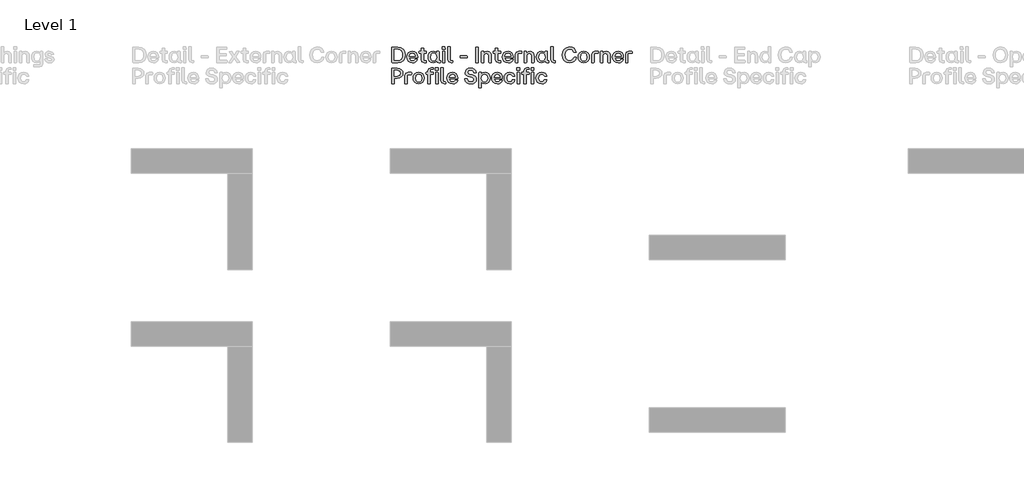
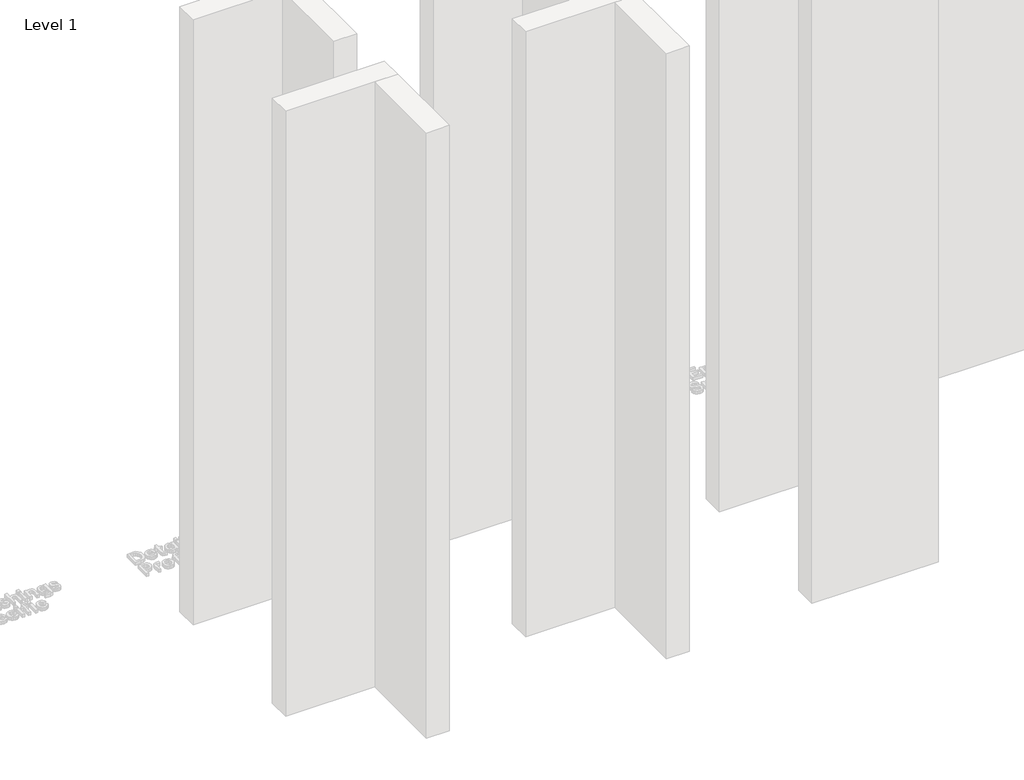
# One storey, part 41 of 64: 1 proxy.
"""IFC4 building model written with IfcOpenShell, lengths in millimetres."""

from ifc_helpers import new_model, si_unit, origin, origin_with_axes, place, context, project, spatial, polyline, outline, extrude, element, save

model = new_model("IFC4")

# Units and contexts
model_context = context("Model", 3, world=origin())
ifc_project = project(units=[si_unit("LENGTHUNIT", "METRE", prefix="MILLI")], contexts=[model_context])

# Site, building, storey
site = spatial("IfcSite", under=ifc_project)
building = spatial("IfcBuilding", under=site)
storey = spatial("IfcBuildingStorey", under=building, Name="Level 1", Elevation=0.0)

# Proxy
placement = place(None, origin())
element("IfcBuildingElementProxy", 1, Name="90mm", ObjectType="90mm", at=placement, inside=storey, context=model_context, shape_type="SweptSolid", body=[
    extrude(outline(polyline([(10610.2926176, -1500.0), (10608.9872124, -1498.7448027), (10608.9872124, -1411.3077612), (10642.5511873, -1410.002356), (10660.5475781, -1413.0054155), (10674.1193986, -1422.0145938), (10682.63905, -1436.3583606), (10685.4789338, -1455.3651852), (10682.648464, -1474.2025582), (10674.1570545, -1488.2890095), (10660.594648, -1497.0722524), (10642.5511873, -1500.0), (10610.2926176, -1500.0)]), holes=[polyline([(10623.7985402, -1487.3727155), (10641.6725492, -1487.3727155), (10653.8950326, -1485.311054), (10662.9481429, -1479.1260695), (10668.5494607, -1469.0625254), (10670.4165666, -1455.3651852), (10668.5431847, -1441.5109454), (10662.923039, -1431.1775339), (10653.8636527, -1424.7477859), (10641.6725492, -1422.6045366), (10623.7985402, -1422.6045366), (10623.7985402, -1487.3727155)])]), origin_with_axes(), (0.0, 0.0, 1.0), 20.0),
    extrude(outline(polyline([(10727.628458, -1500.7531184), (10714.0409476, -1498.4843493), (10703.5035666, -1491.6780421), (10696.7443293, -1481.0622112), (10694.4912502, -1467.3648711), (10696.7349153, -1453.5012173), (10703.4659107, -1442.7881086), (10713.9938777, -1435.9347315), (10727.628458, -1433.6502725), (10740.1584647, -1435.9033516), (10749.7324819, -1442.6625889), (10755.8044987, -1453.3129377), (10757.8285043, -1467.2393514), (10757.8285043, -1470.6785919), (10756.573307, -1472.009101), (10709.1268503, -1472.009101), (10714.6497183, -1484.6865934), (10727.628458, -1489.2053035), (10738.0465953, -1486.9082925), (10743.4439436, -1480.4691305), (10744.8246606, -1479.4147648), (10756.1967478, -1479.4147648), (10754.1633282, -1488.7314665), (10747.8120301, -1495.1925945), (10738.8248176, -1499.3629874), (10727.628458, -1500.7531184)]), holes=[polyline([(10709.2523701, -1461.5909637), (10743.8205028, -1461.5909637), (10739.0633051, -1449.6289337), (10727.628458, -1445.2733992), (10714.8631018, -1449.4155502), (10709.2523701, -1461.5909637)])]), origin_with_axes(), (0.0, 0.0, 1.0), 20.0),
    extrude(outline(polyline([(10796.6140998, -1500.0), (10782.731618, -1495.2302504), (10777.9618684, -1481.3477686), (10777.9618684, -1445.7754781), (10766.7906127, -1445.7754781), (10765.4852076, -1435.7339), (10766.7906127, -1434.4787027), (10777.9618684, -1434.4787027), (10777.9618684, -1416.45407), (10779.2170657, -1415.1486648), (10790.9657121, -1415.1486648), (10792.2209094, -1416.45407), (10792.2209094, -1434.4787027), (10808.0363949, -1434.4787027), (10809.3418001, -1435.7339), (10809.3418001, -1444.444969), (10792.2209094, -1445.7754781), (10792.2209094, -1488.7032246), (10808.0363949, -1488.7032246), (10809.3418001, -1489.9584219), (10809.3418001, -1498.7448027), (10808.0363949, -1500.0), (10796.6140998, -1500.0)])), origin_with_axes(), (0.0, 0.0, 1.0), 20.0),
    extrude(outline(polyline([(10847.2738615, -1500.7531184), (10835.3243835, -1498.4843493), (10826.0861316, -1491.6780421), (10820.1741525, -1481.0622112), (10818.2034928, -1467.3648711), (10820.1741525, -1453.5325972), (10826.0861316, -1442.8132125), (10835.3243835, -1435.9410075), (10847.2738615, -1433.6502725), (10859.1856835, -1436.5372262), (10868.160344, -1444.444969), (10868.7377347, -1435.7339), (10869.992932, -1434.4787027), (10881.6662665, -1434.4787027), (10882.9716717, -1435.7339), (10882.9716717, -1488.7032246), (10890.0760882, -1488.7032246), (10891.3312855, -1489.9584219), (10891.3312855, -1498.7448027), (10890.0760882, -1500.0), (10880.536589, -1500.0), (10872.1581473, -1497.6465051), (10869.3653333, -1490.5860205), (10859.7254183, -1497.8661646), (10847.2738615, -1500.7531184)]), holes=[polyline([(10832.7135732, -1467.3648711), (10837.6716024, -1483.3686362), (10843.5365116, -1487.7461367), (10851.2151809, -1489.2053035), (10858.7714684, -1487.7524127), (10864.470064, -1483.3937402), (10869.2398136, -1467.3648711), (10864.4324081, -1451.1728263), (10858.7243985, -1446.748256), (10851.2151809, -1445.2733992), (10843.5365116, -1446.748256), (10837.6716024, -1451.1728263), (10832.7135732, -1467.3648711)])]), origin_with_axes(), (0.0, 0.0, 1.0), 20.0),
    extrude(outline(polyline([(10903.6824266, -1500.0), (10902.3770214, -1498.7448027), (10902.3770214, -1435.7339), (10903.6824266, -1434.4787027), (10915.3557612, -1434.4787027), (10916.6109584, -1435.7339), (10916.6109584, -1498.7448027), (10915.3557612, -1500.0), (10903.6824266, -1500.0)])), origin_with_axes(), (0.0, 0.0, 1.0), 20.0),
    extrude(outline(polyline([(10901.3728636, -1421.8514182), (10901.3728636, -1407.9940404), (10902.6280609, -1406.6635313), (10916.4854387, -1406.6635313), (10917.8159478, -1421.8514182), (10916.4854387, -1423.1066155), (10902.6280609, -1423.1066155), (10901.3728636, -1421.8514182)])), origin_with_axes(), (0.0, 0.0, 1.0), 20.0),
    extrude(outline(polyline([(10951.5305464, -1500.0), (10937.6731686, -1495.2302504), (10932.903419, -1481.3477686), (10932.903419, -1408.7471587), (10945.8821587, -1407.4166496), (10947.137356, -1408.7471587), (10947.137356, -1488.7032246), (10959.1370418, -1488.7032246), (10960.3922391, -1489.9584219), (10960.3922391, -1498.7448027), (10959.1370418, -1500.0), (10951.5305464, -1500.0)])), origin_with_axes(), (0.0, 0.0, 1.0), 20.0),
    extrude(outline(polyline([(11005.1776775, -1472.887739), (11003.9224803, -1471.5572299), (11003.9224803, -1461.5909637), (11005.1776775, -1460.2604546), (11043.7875455, -1460.2604546), (11045.0427427, -1461.5909637), (11045.0427427, -1471.5572299), (11043.7875455, -1472.887739), (11005.1776775, -1472.887739)])), origin_with_axes(), (0.0, 0.0, 1.0), 20.0),
    extrude(outline(polyline([(11096.1292715, -1500.0), (11094.8740742, -1498.7448027), (11094.8740742, -1411.3077612), (11096.1292715, -1410.002356), (11108.3799968, -1410.002356), (11109.635194, -1411.3077612), (11109.635194, -1498.7448027), (11108.3799968, -1500.0), (11096.1292715, -1500.0)])), origin_with_axes(), (0.0, 0.0, 1.0), 20.0),
    extrude(outline(polyline([(11128.6137767, -1500.0), (11127.3083716, -1498.7448027), (11127.3083716, -1435.7339), (11128.6137767, -1434.4787027), (11139.6595127, -1434.4787027), (11140.9147099, -1435.7339), (11140.9147099, -1444.444969), (11150.2094457, -1436.3489466), (11162.1275437, -1433.6502725), (11172.0530161, -1435.5330684), (11179.3362982, -1441.1814561), (11183.8079385, -1450.4573639), (11185.2984853, -1463.2227201), (11185.2984853, -1498.7448027), (11183.9679762, -1500.0), (11172.2946416, -1500.0), (11170.9892364, -1498.7448027), (11170.9892364, -1463.2227201), (11167.4746841, -1449.942733), (11156.3661883, -1445.7754781), (11145.1572767, -1450.0054929), (11141.5423086, -1463.2227201), (11141.5423086, -1498.7448027), (11140.2871113, -1500.0), (11128.6137767, -1500.0)])), origin_with_axes(), (0.0, 0.0, 1.0), 20.0),
    extrude(outline(polyline([(11227.19697, -1500.0), (11213.3144882, -1495.2302504), (11208.5447386, -1481.3477686), (11208.5447386, -1445.7754781), (11197.373483, -1445.7754781), (11196.0680778, -1435.7339), (11197.373483, -1434.4787027), (11208.5447386, -1434.4787027), (11208.5447386, -1416.45407), (11209.7999359, -1415.1486648), (11221.5485823, -1415.1486648), (11222.8037796, -1416.45407), (11222.8037796, -1434.4787027), (11238.6192651, -1434.4787027), (11239.9246703, -1435.7339), (11239.9246703, -1444.444969), (11222.8037796, -1445.7754781), (11222.8037796, -1488.7032246), (11238.6192651, -1488.7032246), (11239.9246703, -1489.9584219), (11239.9246703, -1498.7448027), (11238.6192651, -1500.0), (11227.19697, -1500.0)])), origin_with_axes(), (0.0, 0.0, 1.0), 20.0),
    extrude(outline(polyline([(11281.9235708, -1500.7531184), (11268.3360604, -1498.4843493), (11257.7986794, -1491.6780421), (11251.0394421, -1481.0622112), (11248.786363, -1467.3648711), (11251.0300281, -1453.5012173), (11257.7610234, -1442.7881086), (11268.2889905, -1435.9347315), (11281.9235708, -1433.6502725), (11294.4535775, -1435.9033516), (11304.0275947, -1442.6625889), (11310.0996115, -1453.3129377), (11312.123617, -1467.2393514), (11312.123617, -1470.6785919), (11310.8684198, -1472.009101), (11263.4219631, -1472.009101), (11268.9448311, -1484.6865934), (11281.9235708, -1489.2053035), (11292.3417081, -1486.9082925), (11297.7390564, -1480.4691305), (11299.1197734, -1479.4147648), (11310.4918606, -1479.4147648), (11308.458441, -1488.7314665), (11302.1071429, -1495.1925945), (11293.1199304, -1499.3629874), (11281.9235708, -1500.7531184)]), holes=[polyline([(11263.5474828, -1461.5909637), (11298.1156156, -1461.5909637), (11293.3584179, -1449.6289337), (11281.9235708, -1445.2733992), (11269.1582146, -1449.4155502), (11263.5474828, -1461.5909637)])]), origin_with_axes(), (0.0, 0.0, 1.0), 20.0),
    extrude(outline(polyline([(11325.5542278, -1500.0), (11324.2990305, -1498.7448027), (11324.2990305, -1453.0556222), (11329.0687801, -1439.2107964), (11342.926158, -1434.4787027), (11361.2018302, -1434.4787027), (11362.4570274, -1435.7339), (11362.4570274, -1445.2733992), (11361.2018302, -1446.5285965), (11338.5329675, -1446.5285965), (11338.5329675, -1498.7448027), (11337.2777703, -1500.0), (11325.5542278, -1500.0)])), origin_with_axes(), (0.0, 0.0, 1.0), 20.0),
    extrude(outline(polyline([(11376.0382618, -1500.0), (11374.7328567, -1498.7448027), (11374.7328567, -1435.7339), (11376.0382618, -1434.4787027), (11387.0839978, -1434.4787027), (11388.339195, -1435.7339), (11388.339195, -1444.444969), (11397.6339308, -1436.3489466), (11409.5520288, -1433.6502725), (11419.4775012, -1435.5330684), (11426.7607834, -1441.1814561), (11431.2324236, -1450.4573639), (11432.7229704, -1463.2227201), (11432.7229704, -1498.7448027), (11431.3924613, -1500.0), (11419.7191267, -1500.0), (11418.4137215, -1498.7448027), (11418.4137215, -1463.2227201), (11414.8991692, -1449.942733), (11403.7906734, -1445.7754781), (11392.5817618, -1450.0054929), (11388.9667937, -1463.2227201), (11388.9667937, -1498.7448027), (11387.7115964, -1500.0), (11376.0382618, -1500.0)])), origin_with_axes(), (0.0, 0.0, 1.0), 20.0),
    extrude(outline(polyline([(11473.8683368, -1500.7531184), (11461.9188588, -1498.4843493), (11452.6806069, -1491.6780421), (11446.7686278, -1481.0622112), (11444.7979681, -1467.3648711), (11446.7686278, -1453.5325972), (11452.6806069, -1442.8132125), (11461.9188588, -1435.9410075), (11473.8683368, -1433.6502725), (11485.7801588, -1436.5372262), (11494.7548193, -1444.444969), (11495.33221, -1435.7339), (11496.5874073, -1434.4787027), (11508.2607419, -1434.4787027), (11509.566147, -1435.7339), (11509.566147, -1488.7032246), (11516.6705636, -1488.7032246), (11517.9257608, -1489.9584219), (11517.9257608, -1498.7448027), (11516.6705636, -1500.0), (11507.1310643, -1500.0), (11498.7526226, -1497.6465051), (11495.9598087, -1490.5860205), (11486.3198937, -1497.8661646), (11473.8683368, -1500.7531184)]), holes=[polyline([(11459.3080485, -1467.3648711), (11464.2660777, -1483.3686362), (11470.1309869, -1487.7461367), (11477.8096562, -1489.2053035), (11485.3659437, -1487.7524127), (11491.0645393, -1483.3937402), (11495.8342889, -1467.3648711), (11491.0268834, -1451.1728263), (11485.3188738, -1446.748256), (11477.8096562, -1445.2733992), (11470.1309869, -1446.748256), (11464.2660777, -1451.1728263), (11459.3080485, -1467.3648711)])]), origin_with_axes(), (0.0, 0.0, 1.0), 20.0),
    extrude(outline(polyline([(11547.5986242, -1500.0), (11533.7412464, -1495.2302504), (11528.9714968, -1481.3477686), (11528.9714968, -1408.7471587), (11541.9502365, -1407.4166496), (11543.2054338, -1408.7471587), (11543.2054338, -1488.7032246), (11555.2051196, -1488.7032246), (11556.4603169, -1489.9584219), (11556.4603169, -1498.7448027), (11555.2051196, -1500.0), (11547.5986242, -1500.0)])), origin_with_axes(), (0.0, 0.0, 1.0), 20.0),
    extrude(outline(polyline([(11638.5251142, -1500.7531184), (11620.5130334, -1497.6684711), (11606.6431036, -1488.4145292), (11597.7939629, -1473.8887589), (11594.8442493, -1454.988626), (11597.8190668, -1436.4054305), (11606.7435194, -1421.8263143), (11620.6385531, -1412.3935068), (11638.5251142, -1409.2492376), (11652.4734938, -1411.3265891), (11664.0432746, -1417.5586436), (11672.3620945, -1427.2424905), (11676.5575913, -1439.6752194), (11663.37802, -1441.1312482), (11661.9470951, -1440.0015707), (11654.0832843, -1426.3889563), (11638.5251142, -1421.8514182), (11626.6007401, -1424.0731174), (11617.5382159, -1430.7382148), (11611.8145163, -1441.244216), (11609.9066165, -1454.988626), (11611.8051024, -1468.9464196), (11617.50056, -1479.4398688), (11626.5536702, -1486.0108265), (11638.5251142, -1488.2011457), (11654.3908076, -1483.7263674), (11662.8257332, -1470.3020327), (11664.2566581, -1469.1221472), (11676.1810321, -1469.1221472), (11673.0085211, -1482.8791093), (11664.5453535, -1492.4688164), (11652.7872931, -1498.6820429), (11638.5251142, -1500.7531184)])), origin_with_axes(), (0.0, 0.0, 1.0), 20.0),
    extrude(outline(polyline([(11720.1631444, -1500.7531184), (11706.9365032, -1498.4466934), (11696.4775719, -1491.5274185), (11689.6712648, -1480.8739317), (11687.4024957, -1467.3648711), (11689.6775408, -1453.7679467), (11696.5026759, -1443.0014921), (11706.9678831, -1435.9880774), (11720.1631444, -1433.6502725), (11733.5153053, -1435.9880774), (11744.0495483, -1443.0014921), (11750.8935114, -1453.7679467), (11753.1748325, -1467.3648711), (11750.8935114, -1480.8739317), (11744.0495483, -1491.5274185), (11733.5153053, -1498.4466934), (11720.1631444, -1500.7531184)]), holes=[polyline([(11701.9125761, -1467.3648711), (11706.7701895, -1483.3937402), (11712.5472349, -1487.7524127), (11720.1631444, -1489.2053035), (11727.8606416, -1487.7461367), (11733.7318268, -1483.3686362), (11738.689856, -1467.3648711), (11733.7569308, -1451.1728263), (11727.8920215, -1446.748256), (11720.1631444, -1445.2733992), (11712.5472349, -1446.748256), (11706.7701895, -1451.1728263), (11701.9125761, -1467.3648711)])]), origin_with_axes(), (0.0, 0.0, 1.0), 20.0),
    extrude(outline(polyline([(11767.3836655, -1500.0), (11766.1284682, -1498.7448027), (11766.1284682, -1453.0556222), (11770.8982179, -1439.2107964), (11784.7555957, -1434.4787027), (11803.0312679, -1434.4787027), (11804.2864651, -1435.7339), (11804.2864651, -1445.2733992), (11803.0312679, -1446.5285965), (11780.3624052, -1446.5285965), (11780.3624052, -1498.7448027), (11779.107208, -1500.0), (11767.3836655, -1500.0)])), origin_with_axes(), (0.0, 0.0, 1.0), 20.0),
    extrude(outline(polyline([(11817.8676996, -1500.0), (11816.5622944, -1498.7448027), (11816.5622944, -1435.7339), (11817.8676996, -1434.4787027), (11828.9134355, -1434.4787027), (11830.1686328, -1435.7339), (11830.1686328, -1444.444969), (11839.4633685, -1436.3489466), (11851.3814666, -1433.6502725), (11861.306939, -1435.5330684), (11868.5902211, -1441.1814561), (11873.0618614, -1450.4573639), (11874.5524081, -1463.2227201), (11874.5524081, -1498.7448027), (11873.221899, -1500.0), (11861.5485644, -1500.0), (11860.2431593, -1498.7448027), (11860.2431593, -1463.2227201), (11856.7286069, -1449.942733), (11845.6201111, -1445.7754781), (11834.4111995, -1450.0054929), (11830.7962314, -1463.2227201), (11830.7962314, -1498.7448027), (11829.5410341, -1500.0), (11817.8676996, -1500.0)])), origin_with_axes(), (0.0, 0.0, 1.0), 20.0),
    extrude(outline(polyline([(11919.7646136, -1500.7531184), (11906.1771032, -1498.4843493), (11895.6397222, -1491.6780421), (11888.8804849, -1481.0622112), (11886.6274058, -1467.3648711), (11888.8710709, -1453.5012173), (11895.6020663, -1442.7881086), (11906.1300333, -1435.9347315), (11919.7646136, -1433.6502725), (11932.2946204, -1435.9033516), (11941.8686375, -1442.6625889), (11947.9406543, -1453.3129377), (11949.9646599, -1467.2393514), (11949.9646599, -1470.6785919), (11948.7094626, -1472.009101), (11901.2630059, -1472.009101), (11906.7858739, -1484.6865934), (11919.7646136, -1489.2053035), (11930.182751, -1486.9082925), (11935.5800992, -1480.4691305), (11936.9608162, -1479.4147648), (11948.3329034, -1479.4147648), (11946.2994838, -1488.7314665), (11939.9481857, -1495.1925945), (11930.9609733, -1499.3629874), (11919.7646136, -1500.7531184)]), holes=[polyline([(11901.3885257, -1461.5909637), (11935.9566584, -1461.5909637), (11931.1994607, -1449.6289337), (11919.7646136, -1445.2733992), (11906.9992574, -1449.4155502), (11901.3885257, -1461.5909637)])]), origin_with_axes(), (0.0, 0.0, 1.0), 20.0),
    extrude(outline(polyline([(11963.3952706, -1500.0), (11962.1400733, -1498.7448027), (11962.1400733, -1453.0556222), (11966.909823, -1439.2107964), (11980.7672008, -1434.4787027), (11999.042873, -1434.4787027), (12000.2980702, -1435.7339), (12000.2980702, -1445.2733992), (11999.042873, -1446.5285965), (11976.3740103, -1446.5285965), (11976.3740103, -1498.7448027), (11975.1188131, -1500.0), (11963.3952706, -1500.0)])), origin_with_axes(), (0.0, 0.0, 1.0), 20.0),
    extrude(outline(polyline([(10610.2926176, -1622.13305), (10608.9872124, -1620.8778528), (10608.9872124, -1533.4408112), (10640.1161046, -1532.135406), (10654.0174144, -1534.0338919), (10664.3414119, -1539.7293495), (10670.7429179, -1548.9236695), (10672.8767533, -1561.3187425), (10670.7429179, -1573.7138155), (10664.3414119, -1582.9081354), (10654.0174144, -1588.603593), (10640.1161046, -1590.5020789), (10623.7985402, -1590.5020789), (10623.7985402, -1620.8778528), (10622.4680311, -1622.13305), (10610.2926176, -1622.13305)]), holes=[polyline([(10623.7985402, -1577.8747944), (10640.1161046, -1577.8747944), (10653.5969233, -1573.7954033), (10657.9901137, -1561.3061905), (10653.5969233, -1548.8169777), (10640.1161046, -1544.7375866), (10623.7985402, -1544.7375866), (10623.7985402, -1577.8747944)])]), origin_with_axes(), (0.0, 0.0, 1.0), 20.0),
    extrude(outline(polyline([(10686.1065325, -1622.13305), (10684.8513352, -1620.8778528), (10684.8513352, -1575.1886723), (10689.6210848, -1561.3438464), (10703.4784626, -1556.6117527), (10721.7541348, -1556.6117527), (10723.0093321, -1557.86695), (10723.0093321, -1567.4064492), (10721.7541348, -1568.6616465), (10699.0852722, -1568.6616465), (10699.0852722, -1620.8778528), (10697.8300749, -1622.13305), (10686.1065325, -1622.13305)])), origin_with_axes(), (0.0, 0.0, 1.0), 20.0),
    extrude(outline(polyline([(10764.2049064, -1622.8861684), (10750.9782652, -1620.5797434), (10740.519334, -1613.6604685), (10733.7130268, -1603.0069817), (10731.4442577, -1589.4979211), (10733.7193028, -1575.9009967), (10740.5444379, -1565.1345422), (10751.0096451, -1558.1211274), (10764.2049064, -1555.7833225), (10777.5570673, -1558.1211274), (10788.0913103, -1565.1345422), (10794.9352734, -1575.9009967), (10797.2165945, -1589.4979211), (10794.9352734, -1603.0069817), (10788.0913103, -1613.6604685), (10777.5570673, -1620.5797434), (10764.2049064, -1622.8861684)]), holes=[polyline([(10745.9543381, -1589.4979211), (10750.8119515, -1605.5267902), (10756.588997, -1609.8854627), (10764.2049064, -1611.3383535), (10771.9024036, -1609.8791867), (10777.7735888, -1605.5016862), (10782.731618, -1589.4979211), (10777.7986928, -1573.3058764), (10771.9337835, -1568.881306), (10764.2049064, -1567.4064492), (10756.588997, -1568.881306), (10750.8119515, -1573.3058764), (10745.9543381, -1589.4979211)])]), origin_with_axes(), (0.0, 0.0, 1.0), 20.0),
    extrude(outline(polyline([(10861.3069669, -1543.9844682), (10861.3069669, -1530.1270904), (10862.5621642, -1528.7965813), (10876.4948538, -1528.7965813), (10877.7500511, -1530.1270904), (10877.7500511, -1543.9844682), (10876.4948538, -1545.2396655), (10862.5621642, -1545.2396655), (10861.3069669, -1543.9844682)])), origin_with_axes(), (0.0, 0.0, 1.0), 20.0),
    extrude(outline(polyline([(10862.3111247, -1620.8778528), (10862.3111247, -1557.86695), (10863.6416338, -1556.6117527), (10875.3149684, -1556.6117527), (10876.6203735, -1557.86695), (10876.6203735, -1620.8778528), (10875.3149684, -1622.13305), (10863.6416338, -1622.13305), (10862.3111247, -1620.8778528)])), origin_with_axes(), (0.0, 0.0, 1.0), 20.0),
    extrude(outline(polyline([(10819.3833782, -1622.13305), (10818.1281809, -1620.8778528), (10818.1281809, -1567.9085281), (10806.9569253, -1567.9085281), (10805.6515201, -1557.86695), (10806.9569253, -1556.6117527), (10818.1281809, -1556.6117527), (10818.1281809, -1548.201931), (10822.8979305, -1534.3194493), (10836.7804123, -1529.5496997), (10848.2027074, -1529.5496997), (10849.5081126, -1539.5912778), (10832.3872219, -1540.9217869), (10832.3872219, -1556.6117527), (10848.2027074, -1556.6117527), (10849.5081126, -1557.86695), (10849.5081126, -1566.578019), (10832.3872219, -1567.9085281), (10832.3872219, -1620.8778528), (10831.1320246, -1622.13305), (10819.3833782, -1622.13305)])), origin_with_axes(), (0.0, 0.0, 1.0), 20.0),
    extrude(outline(polyline([(10911.3642339, -1622.13305), (10897.506856, -1617.3633004), (10892.7371064, -1603.4808186), (10892.7371064, -1530.8802088), (10905.7158462, -1529.5496997), (10906.9710434, -1530.8802088), (10906.9710434, -1610.8362746), (10918.9707293, -1610.8362746), (10920.2259266, -1612.0914719), (10920.2259266, -1620.8778528), (10918.9707293, -1622.13305), (10911.3642339, -1622.13305)])), origin_with_axes(), (0.0, 0.0, 1.0), 20.0),
    extrude(outline(polyline([(10960.5930707, -1622.8861684), (10947.0055602, -1620.6173993), (10936.4681792, -1613.8110921), (10929.7089419, -1603.1952613), (10927.4558628, -1589.4979211), (10929.6995279, -1575.6342673), (10936.4305233, -1564.9211586), (10946.9584903, -1558.0677815), (10960.5930707, -1555.7833225), (10973.1230774, -1558.0364016), (10982.6970945, -1564.7956389), (10988.7691113, -1575.4459877), (10990.7931169, -1589.3724014), (10990.7931169, -1592.8116419), (10989.5379196, -1594.142151), (10942.0914629, -1594.142151), (10947.6143309, -1606.8196434), (10960.5930707, -1611.3383535), (10971.011208, -1609.0413425), (10976.4085562, -1602.6021806), (10977.7892732, -1601.5478148), (10989.1613604, -1601.5478148), (10987.1279409, -1610.8645166), (10980.7766427, -1617.3256445), (10971.7894303, -1621.4960374), (10960.5930707, -1622.8861684)]), holes=[polyline([(10942.2169827, -1583.7240137), (10976.7851154, -1583.7240137), (10972.0279177, -1571.7619837), (10960.5930707, -1567.4064492), (10947.8277145, -1571.5486002), (10942.2169827, -1583.7240137)])]), origin_with_axes(), (0.0, 0.0, 1.0), 20.0),
    extrude(outline(polyline([(11066.8831752, -1622.8861684), (11053.1136611, -1621.0347524), (11042.4319324, -1615.4805045), (11035.1706162, -1606.5058441), (11031.6623399, -1594.3931904), (11044.917223, -1592.9371616), (11046.2226282, -1594.142151), (11052.4107507, -1606.6941236), (11066.8831752, -1610.5852352), (11079.3974919, -1607.007923), (11083.8785461, -1597.0793126), (11080.7782089, -1588.8326665), (11070.3977275, -1584.7281715), (11058.5235614, -1582.644544), (11047.5186193, -1579.3904451), (11039.6579465, -1574.0715467), (11034.9415427, -1566.6878488), (11033.3694082, -1557.2393514), (11035.3839998, -1546.397585), (11041.4277746, -1538.2231128), (11051.0802416, -1533.0924939), (11063.9209096, -1531.3822877), (11076.6548859, -1533.1144599), (11086.5897722, -1538.3109766), (11093.3803895, -1546.6643144), (11096.6815583, -1557.86695), (11083.501987, -1559.2978749), (11082.0710621, -1557.86695), (11076.2594987, -1547.1601173), (11063.9209096, -1543.7334288), (11052.1597112, -1546.8714219), (11048.1054241, -1556.034362), (11051.7203922, -1564.732879), (11063.0422715, -1569.2892451), (11074.8411258, -1571.3477686), (11085.6609263, -1574.5171417), (11093.0163822, -1579.6069666), (11097.2338451, -1586.9373187), (11098.639666, -1596.8282731), (11096.5277966, -1607.7422134), (11090.1921884, -1615.9825834), (11080.1411963, -1621.1602721), (11066.8831752, -1622.8861684)])), origin_with_axes(), (0.0, 0.0, 1.0), 20.0),
    extrude(outline(polyline([(11114.1539042, -1646.5340849), (11112.848499, -1645.2788876), (11112.848499, -1557.86695), (11114.1539042, -1556.6117527), (11125.1996401, -1556.6117527), (11126.4548374, -1557.86695), (11126.4548374, -1566.4524993), (11136.0947524, -1558.6702762), (11148.5463093, -1555.7833225), (11160.4957873, -1558.0583676), (11169.7340392, -1564.8835027), (11175.6460183, -1575.5244375), (11177.616678, -1589.2468816), (11175.6460183, -1603.0540516), (11169.7340392, -1613.7483323), (11160.4957873, -1620.6017094), (11148.5463093, -1622.8861684), (11136.6344872, -1619.9992147), (11127.6598268, -1612.0914719), (11127.082436, -1645.2788876), (11125.8272388, -1646.5340849), (11114.1539042, -1646.5340849)]), holes=[polyline([(11126.5803571, -1589.2468816), (11131.3877627, -1605.4389264), (11137.0957722, -1609.8634967), (11144.6049899, -1611.3383535), (11152.2836592, -1609.8634967), (11158.1485684, -1605.4389264), (11163.1065976, -1589.2468816), (11158.1485684, -1573.2431165), (11152.2836592, -1568.865616), (11144.6049899, -1567.4064492), (11137.0487023, -1568.856202), (11131.3501068, -1573.2054606), (11126.5803571, -1589.2468816)])]), origin_with_axes(), (0.0, 0.0, 1.0), 20.0),
    extrude(outline(polyline([(11219.2641233, -1622.8861684), (11205.6766129, -1620.6173993), (11195.1392318, -1613.8110921), (11188.3799945, -1603.1952613), (11186.1269155, -1589.4979211), (11188.3705806, -1575.6342673), (11195.1015759, -1564.9211586), (11205.629543, -1558.0677815), (11219.2641233, -1555.7833225), (11231.79413, -1558.0364016), (11241.3681471, -1564.7956389), (11247.4401639, -1575.4459877), (11249.4641695, -1589.3724014), (11249.4641695, -1592.8116419), (11248.2089722, -1594.142151), (11200.7625156, -1594.142151), (11206.2853836, -1606.8196434), (11219.2641233, -1611.3383535), (11229.6822606, -1609.0413425), (11235.0796088, -1602.6021806), (11236.4603258, -1601.5478148), (11247.8324131, -1601.5478148), (11245.7989935, -1610.8645166), (11239.4476953, -1617.3256445), (11230.4604829, -1621.4960374), (11219.2641233, -1622.8861684)]), holes=[polyline([(11200.8880353, -1583.7240137), (11235.456168, -1583.7240137), (11230.6989704, -1571.7619837), (11219.2641233, -1567.4064492), (11206.4987671, -1571.5486002), (11200.8880353, -1583.7240137)])]), origin_with_axes(), (0.0, 0.0, 1.0), 20.0),
    extrude(outline(polyline([(11291.4379661, -1622.8861684), (11277.9445955, -1620.6173993), (11267.4385944, -1613.8110921), (11260.6793571, -1603.1952613), (11258.426278, -1589.4979211), (11260.710737, -1575.9009967), (11267.5641141, -1565.1345422), (11278.1014951, -1558.1211274), (11291.4379661, -1555.7833225), (11302.4209422, -1557.3303532), (11311.3704987, -1561.971445), (11317.6841409, -1569.1543114), (11320.7593742, -1578.3266654), (11308.1320897, -1579.7073824), (11301.7054797, -1570.1678832), (11291.4379661, -1567.4064492), (11283.680847, -1568.881306), (11277.8316277, -1573.3058764), (11272.9363584, -1589.4979211), (11277.8567317, -1605.5644461), (11283.7122269, -1609.8948767), (11291.4379661, -1611.3383535), (11302.019279, -1608.7024393), (11307.3789714, -1600.1670979), (11308.7596884, -1598.9621085), (11320.1317756, -1598.9621085), (11318.12346, -1609.4712476), (11311.7470579, -1616.6980459), (11302.7033616, -1621.3391377), (11291.4379661, -1622.8861684)])), origin_with_axes(), (0.0, 0.0, 1.0), 20.0),
    extrude(outline(polyline([(11335.8719493, -1622.13305), (11334.5665442, -1620.8778528), (11334.5665442, -1557.86695), (11335.8719493, -1556.6117527), (11347.5452839, -1556.6117527), (11348.8004812, -1557.86695), (11348.8004812, -1620.8778528), (11347.5452839, -1622.13305), (11335.8719493, -1622.13305)])), origin_with_axes(), (0.0, 0.0, 1.0), 20.0),
    extrude(outline(polyline([(11333.5623863, -1543.9844682), (11333.5623863, -1530.1270904), (11334.8175836, -1528.7965813), (11348.6749614, -1528.7965813), (11350.0054705, -1543.9844682), (11348.6749614, -1545.2396655), (11334.8175836, -1545.2396655), (11333.5623863, -1543.9844682)])), origin_with_axes(), (0.0, 0.0, 1.0), 20.0),
    extrude(outline(polyline([(11373.678491, -1622.13305), (11372.4232937, -1620.8778528), (11372.4232937, -1567.9085281), (11361.252038, -1567.9085281), (11359.9466329, -1557.86695), (11361.252038, -1556.6117527), (11372.4232937, -1556.6117527), (11372.4232937, -1548.201931), (11377.1930433, -1534.3194493), (11391.0755251, -1529.5496997), (11402.4978202, -1529.5496997), (11403.8032254, -1539.5912778), (11386.6823347, -1540.9217869), (11386.6823347, -1556.6117527), (11402.4978202, -1556.6117527), (11403.8032254, -1557.86695), (11403.8032254, -1566.578019), (11386.6823347, -1567.9085281), (11386.6823347, -1620.8778528), (11385.4271374, -1622.13305), (11373.678491, -1622.13305)])), origin_with_axes(), (0.0, 0.0, 1.0), 20.0),
    extrude(outline(polyline([(11415.6020797, -1543.9844682), (11415.6020797, -1530.1270904), (11416.8572769, -1528.7965813), (11430.7899666, -1528.7965813), (11432.0451639, -1530.1270904), (11432.0451639, -1543.9844682), (11430.7899666, -1545.2396655), (11416.8572769, -1545.2396655), (11415.6020797, -1543.9844682)])), origin_with_axes(), (0.0, 0.0, 1.0), 20.0),
    extrude(outline(polyline([(11416.6062375, -1620.8778528), (11416.6062375, -1557.86695), (11417.9367466, -1556.6117527), (11429.6100812, -1556.6117527), (11430.9154863, -1557.86695), (11430.9154863, -1620.8778528), (11429.6100812, -1622.13305), (11417.9367466, -1622.13305), (11416.6062375, -1620.8778528)])), origin_with_axes(), (0.0, 0.0, 1.0), 20.0),
    extrude(outline(polyline([(11476.2030037, -1622.8861684), (11462.7096331, -1620.6173993), (11452.203632, -1613.8110921), (11445.4443947, -1603.1952613), (11443.1913156, -1589.4979211), (11445.4757746, -1575.9009967), (11452.3291517, -1565.1345422), (11462.8665327, -1558.1211274), (11476.2030037, -1555.7833225), (11487.1859798, -1557.3303532), (11496.1355363, -1561.971445), (11502.4491785, -1569.1543114), (11505.5244118, -1578.3266654), (11492.8971273, -1579.7073824), (11486.4705173, -1570.1678832), (11476.2030037, -1567.4064492), (11468.4458846, -1568.881306), (11462.5966653, -1573.3058764), (11457.701396, -1589.4979211), (11462.6217693, -1605.5644461), (11468.4772645, -1609.8948767), (11476.2030037, -1611.3383535), (11486.7843166, -1608.7024393), (11492.144009, -1600.1670979), (11493.524726, -1598.9621085), (11504.8968132, -1598.9621085), (11502.8884976, -1609.4712476), (11496.5120955, -1616.6980459), (11487.4683992, -1621.3391377), (11476.2030037, -1622.8861684)])), origin_with_axes(), (0.0, 0.0, 1.0), 20.0),
])

save(model, "model.ifc")
